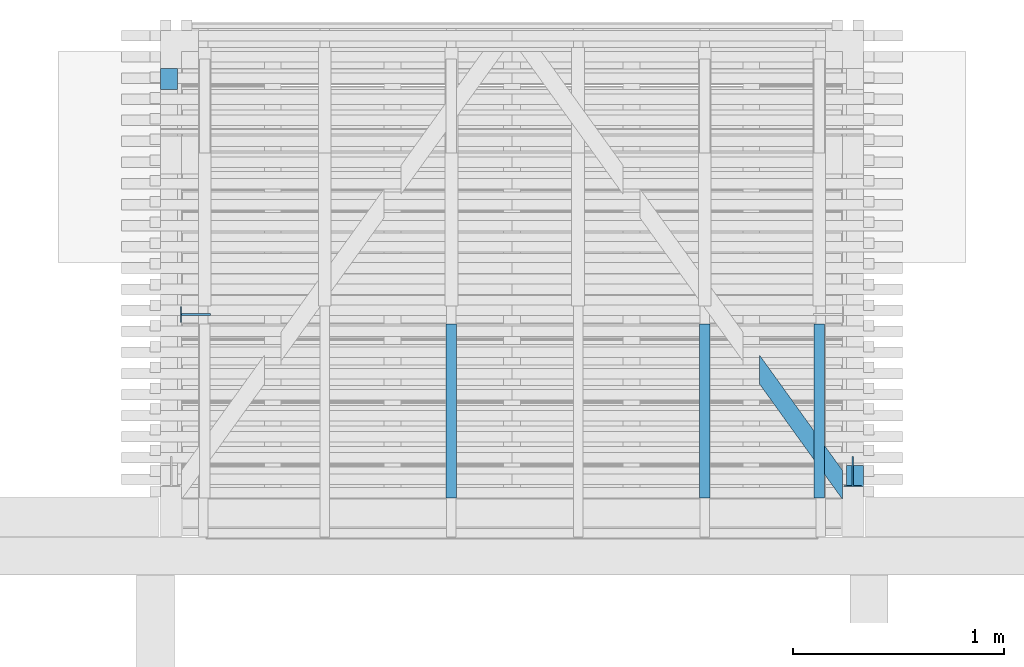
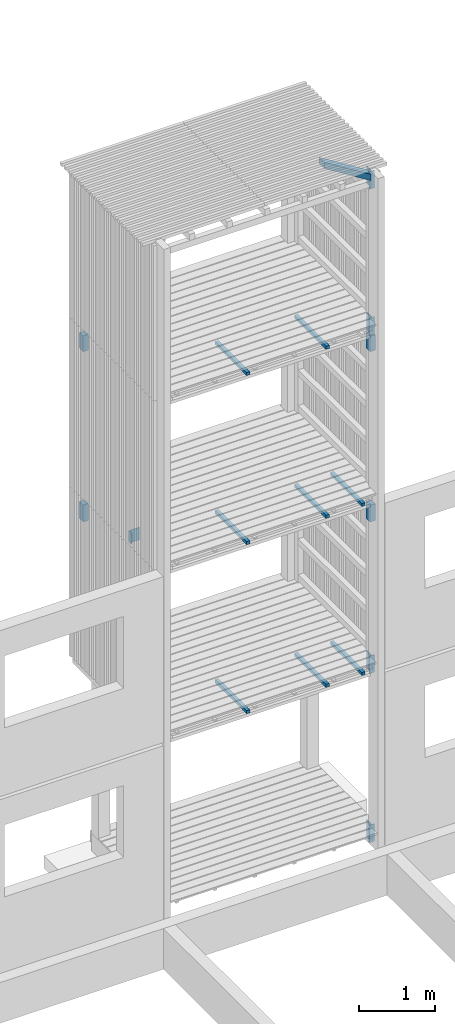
# One storey, part 162 of 182: 18 beams.
"""IFC2X3 building model written with IfcOpenShell, lengths in metres."""

from ifc_helpers import new_model, si_unit, frame, origin, place, context, project, spatial, faceted_brep, element, save


model = new_model("IFC2X3")

# Units and contexts
model_context = context("Model", 3, precision=1e-06, world=origin())
ifc_project = project(units=[si_unit("LENGTHUNIT", "METRE"), si_unit("PLANEANGLEUNIT", "RADIAN")], contexts=[model_context])

# Site, building, storey
site = spatial("IfcSite", under=ifc_project, CompositionType="ELEMENT")
building = spatial("IfcBuilding", under=site, CompositionType="ELEMENT")
storey = spatial("IfcBuildingStorey", under=building, Name="vs", CompositionType="ELEMENT", Elevation=-0.85)

# Beams
placement = place(None, origin())
beam_1_placement = place(placement, frame((6.604197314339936, 10.760077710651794, 4.85796194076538), z_axis=(0.0, 1.0, 0.0), x_axis=(0.0, 0.0, 1.0)))
element("IfcBeam", 1, at=beam_1_placement, inside=storey, Name="Support bardage", context=model_context, shape_type="Brep", body=[
    faceted_brep([(0.267038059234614, 0.039999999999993, -0.050000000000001), (0.267038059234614, 0.039999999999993, 0.05), (0.267038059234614, -0.04000000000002, 0.05), (0.267038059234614, -0.04000000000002, -0.050000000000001), (0.267038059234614, 0.039999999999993, -0.050000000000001), (0.267038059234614, -0.04000000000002, -0.050000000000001), (0.0, -0.04000000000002, -0.050000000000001), (0.0, 0.039999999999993, -0.050000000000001), (0.267038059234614, 0.039999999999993, 0.05), (0.267038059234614, 0.039999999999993, -0.050000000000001), (0.0, 0.039999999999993, -0.050000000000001), (0.0, 0.039999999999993, 0.05), (0.0, -0.04000000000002, -0.050000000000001), (0.267038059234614, -0.04000000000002, -0.050000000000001), (0.267038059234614, -0.04000000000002, 0.05), (0.0, -0.04000000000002, 0.05), (0.0, -0.04000000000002, 0.05), (0.267038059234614, -0.04000000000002, 0.05), (0.267038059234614, 0.039999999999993, 0.05), (0.0, 0.039999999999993, 0.05), (0.0, -0.04000000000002, -0.050000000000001), (0.0, -0.04000000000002, 0.05), (0.0, 0.039999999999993, 0.05), (0.0, 0.039999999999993, -0.050000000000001)], [[[0, 1, 2, 3]], [[4, 5, 6, 7]], [[8, 9, 10, 11]], [[12, 13, 14, 15]], [[16, 17, 18, 19]], [[20, 21, 22, 23]]]),
])
beam_2_placement = place(placement, frame((6.604197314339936, 10.760077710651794, 7.576188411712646), z_axis=(0.0, 1.0, 0.0), x_axis=(0.0, 0.0, 1.0)))
element("IfcBeam", 2, at=beam_2_placement, inside=storey, Name="Support bardage", context=model_context, shape_type="Brep", body=[
    faceted_brep([(0.248811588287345, 0.039999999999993, -0.050000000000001), (0.248811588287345, 0.039999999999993, 0.05), (0.248811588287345, -0.04000000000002, 0.05), (0.248811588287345, -0.04000000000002, -0.050000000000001), (0.248811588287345, 0.039999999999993, -0.050000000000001), (0.248811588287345, -0.04000000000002, -0.050000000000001), (0.0, -0.04000000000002, -0.050000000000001), (0.0, 0.039999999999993, -0.050000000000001), (0.0, -0.04000000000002, -0.050000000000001), (0.248811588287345, -0.04000000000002, -0.050000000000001), (0.248811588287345, -0.04000000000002, 0.05), (0.0, -0.04000000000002, 0.05), (0.0, -0.04000000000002, 0.05), (0.248811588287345, -0.04000000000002, 0.05), (0.248811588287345, 0.039999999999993, 0.05), (0.0, 0.039999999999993, 0.05), (0.0, 0.039999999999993, 0.05), (0.248811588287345, 0.039999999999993, 0.05), (0.248811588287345, 0.039999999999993, -0.050000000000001), (0.0, 0.039999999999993, -0.050000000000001), (0.0, -0.04000000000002, 0.05), (0.0, 0.039999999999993, 0.05), (0.0, 0.039999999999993, -0.050000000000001), (0.0, -0.04000000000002, -0.050000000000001)], [[[0, 1, 2, 3]], [[4, 5, 6, 7]], [[8, 9, 10, 11]], [[12, 13, 14, 15]], [[16, 17, 18, 19]], [[20, 21, 22, 23]]]),
])
beam_3_placement = place(placement, frame((5.892197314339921, 10.655077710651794, 5.217999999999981), z_axis=(0.0, 0.0, 1.0), x_axis=(0.0, 1.0, 0.0)))
element("IfcBeam", 3, at=beam_3_placement, inside=storey, Name="Calage", context=model_context, shape_type="Brep", body=[
    faceted_brep([(0.824999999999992, -0.025000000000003, 0.024999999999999), (0.824999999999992, 0.024999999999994, 0.024999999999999), (-1e-15, 0.024999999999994, 0.024999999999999), (-1e-15, -0.025000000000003, 0.024999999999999), (-1e-15, 0.024999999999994, 0.024999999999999), (0.824999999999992, 0.024999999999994, 0.024999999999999), (0.824999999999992, 0.024999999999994, -0.025), (-1e-15, 0.024999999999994, -0.025), (0.824999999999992, 0.024999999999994, 0.024999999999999), (0.824999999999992, -0.025000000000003, 0.024999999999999), (0.824999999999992, -0.025000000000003, -0.025), (0.824999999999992, 0.024999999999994, -0.025), (0.824999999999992, -0.025000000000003, -0.025), (0.824999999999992, -0.025000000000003, 0.024999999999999), (-1e-15, -0.025000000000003, 0.024999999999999), (-1e-15, -0.025000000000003, -0.025), (-1e-15, 0.024999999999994, -0.025), (0.824999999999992, 0.024999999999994, -0.025), (0.824999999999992, -0.025000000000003, -0.025), (-1e-15, -0.025000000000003, -0.025), (-1e-15, 0.024999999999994, 0.024999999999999), (-1e-15, 0.024999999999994, -0.025), (-1e-15, -0.025000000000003, -0.025), (-1e-15, -0.025000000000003, 0.024999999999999)], [[[0, 1, 2, 3]], [[4, 5, 6, 7]], [[8, 9, 10, 11]], [[12, 13, 14, 15]], [[16, 17, 18, 19]], [[20, 21, 22, 23]]]),
])
beam_4_placement = place(placement, frame((6.55319731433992, 10.781077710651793, -0.119999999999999), z_axis=(0.0, 0.0, 1.0), x_axis=(1.0, 0.0, 0.0)))
element("IfcBeam", 4, at=beam_4_placement, inside=storey, Name="Contre-usinage", context=model_context, shape_type="Brep", body=[
    faceted_brep([(0.037000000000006, -0.065999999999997, -0.14), (0.037000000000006, 0.071, -0.14), (0.045000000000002, 0.071, -0.14), (0.045000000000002, -0.065999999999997, -0.14), (0.082000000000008, -0.066000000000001, -0.14), (0.082000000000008, -0.071, -0.14), (0.0, -0.071, -0.14), (0.0, -0.066000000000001, -0.14), (0.045000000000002, 0.071, -0.14), (0.037000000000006, 0.071, -0.14), (0.037000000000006, 0.071, 0.14), (0.045000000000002, 0.071, 0.14), (0.045000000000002, -0.066000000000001, 0.14), (0.045000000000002, -0.065999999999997, -0.14), (0.045000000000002, 0.071, -0.14), (0.045000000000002, 0.071, 0.14), (0.082000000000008, -0.066000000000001, -0.14), (0.045000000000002, -0.065999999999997, -0.14), (0.045000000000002, -0.066000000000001, 0.14), (0.082000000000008, -0.066000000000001, 0.14), (0.082000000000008, -0.071, -0.14), (0.082000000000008, -0.066000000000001, -0.14), (0.082000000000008, -0.066000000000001, 0.14), (0.082000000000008, -0.071, 0.14), (0.0, -0.071, -0.14), (0.082000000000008, -0.071, -0.14), (0.082000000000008, -0.071, 0.14), (0.0, -0.071, 0.14), (0.0, -0.066000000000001, -0.14), (0.0, -0.071, -0.14), (0.0, -0.071, 0.14), (0.0, -0.066000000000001, 0.14), (0.037000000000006, -0.065999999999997, -0.14), (0.0, -0.066000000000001, -0.14), (0.0, -0.066000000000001, 0.14), (0.037000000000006, -0.066000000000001, 0.14), (0.037000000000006, 0.071, 0.14), (0.037000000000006, 0.071, -0.14), (0.037000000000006, -0.065999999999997, -0.14), (0.037000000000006, -0.066000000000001, 0.14), (0.082000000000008, -0.066000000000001, 0.14), (0.045000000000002, -0.066000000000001, 0.14), (0.045000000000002, 0.071, 0.14), (0.037000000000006, 0.071, 0.14), (0.037000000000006, -0.066000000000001, 0.14), (0.0, -0.066000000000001, 0.14), (0.0, -0.071, 0.14), (0.082000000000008, -0.071, 0.14)], [[[0, 1, 2, 3, 4, 5, 6, 7]], [[8, 9, 10, 11]], [[12, 13, 14, 15]], [[16, 17, 18, 19]], [[20, 21, 22, 23]], [[24, 25, 26, 27]], [[28, 29, 30, 31]], [[32, 33, 34, 35]], [[36, 37, 38, 39]], [[40, 41, 42, 43, 44, 45, 46, 47]]]),
])
beam_5_placement = place(placement, frame((4.692197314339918, 10.655077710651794, 5.217999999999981), z_axis=(0.0, 0.0, 1.0), x_axis=(0.0, 1.0, 0.0)))
element("IfcBeam", 5, at=beam_5_placement, inside=storey, Name="Calage", context=model_context, shape_type="Brep", body=[
    faceted_brep([(0.824999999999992, -0.025000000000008, 0.024999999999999), (0.824999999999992, 0.024999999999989, 0.024999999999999), (-1e-15, 0.024999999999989, 0.024999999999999), (-1e-15, -0.025000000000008, 0.024999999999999), (-1e-15, 0.024999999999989, 0.024999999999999), (0.824999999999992, 0.024999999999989, 0.024999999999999), (0.824999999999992, 0.024999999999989, -0.025), (-1e-15, 0.024999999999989, -0.025), (0.824999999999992, 0.024999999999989, 0.024999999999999), (0.824999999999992, -0.025000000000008, 0.024999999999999), (0.824999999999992, -0.025000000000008, -0.025), (0.824999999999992, 0.024999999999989, -0.025), (0.824999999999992, -0.025000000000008, -0.025), (0.824999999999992, -0.025000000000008, 0.024999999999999), (-1e-15, -0.025000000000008, 0.024999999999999), (-1e-15, -0.025000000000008, -0.025), (-1e-15, 0.024999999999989, -0.025), (0.824999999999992, 0.024999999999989, -0.025), (0.824999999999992, -0.025000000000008, -0.025), (-1e-15, -0.025000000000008, -0.025), (-1e-15, 0.024999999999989, 0.024999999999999), (-1e-15, 0.024999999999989, -0.025), (-1e-15, -0.025000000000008, -0.025), (-1e-15, -0.025000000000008, 0.024999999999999)], [[[0, 1, 2, 3]], [[4, 5, 6, 7]], [[8, 9, 10, 11]], [[12, 13, 14, 15]], [[16, 17, 18, 19]], [[20, 21, 22, 23]]]),
])
beam_6_placement = place(placement, frame((6.434197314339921, 10.655077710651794, 2.517999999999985), z_axis=(0.0, 0.0, 1.0), x_axis=(0.0, 1.0, 0.0)))
element("IfcBeam", 6, at=beam_6_placement, inside=storey, Name="Calage", context=model_context, shape_type="Brep", body=[
    faceted_brep([(-1e-15, -0.025000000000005, 0.025), (0.824999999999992, -0.025000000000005, 0.025), (0.824999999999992, 0.024999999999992, 0.025), (-1e-15, 0.024999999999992, 0.025), (-1e-15, 0.024999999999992, 0.025), (0.824999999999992, 0.024999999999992, 0.025), (0.824999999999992, 0.024999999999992, -0.025), (-1e-15, 0.024999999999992, -0.025), (0.824999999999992, 0.024999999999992, 0.025), (0.824999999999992, -0.025000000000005, 0.025), (0.824999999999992, -0.025000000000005, -0.025), (0.824999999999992, 0.024999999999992, -0.025), (-1e-15, -0.025000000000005, -0.025), (0.824999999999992, -0.025000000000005, -0.025), (0.824999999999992, -0.025000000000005, 0.025), (-1e-15, -0.025000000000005, 0.025), (-1e-15, 0.024999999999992, -0.025), (0.824999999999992, 0.024999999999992, -0.025), (0.824999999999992, -0.025000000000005, -0.025), (-1e-15, -0.025000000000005, -0.025), (-1e-15, 0.024999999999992, 0.025), (-1e-15, 0.024999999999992, -0.025), (-1e-15, -0.025000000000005, -0.025), (-1e-15, -0.025000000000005, 0.025)], [[[0, 1, 2, 3]], [[4, 5, 6, 7]], [[8, 9, 10, 11]], [[12, 13, 14, 15]], [[16, 17, 18, 19]], [[20, 21, 22, 23]]]),
])
beam_7_placement = place(placement, frame((5.892197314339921, 10.655077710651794, 7.917999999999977), z_axis=(0.0, 0.0, 1.0), x_axis=(0.0, 1.0, 0.0)))
element("IfcBeam", 7, at=beam_7_placement, inside=storey, Name="Calage", context=model_context, shape_type="Brep", body=[
    faceted_brep([(0.824999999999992, -0.025000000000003, 0.024999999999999), (0.824999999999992, 0.024999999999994, 0.024999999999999), (-1e-15, 0.024999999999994, 0.024999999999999), (-1e-15, -0.025000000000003, 0.024999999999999), (-1e-15, 0.024999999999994, 0.024999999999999), (0.824999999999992, 0.024999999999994, 0.024999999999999), (0.824999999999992, 0.024999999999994, -0.025), (-1e-15, 0.024999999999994, -0.025), (0.824999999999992, 0.024999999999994, 0.024999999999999), (0.824999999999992, -0.025000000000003, 0.024999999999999), (0.824999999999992, -0.025000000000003, -0.025), (0.824999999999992, 0.024999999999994, -0.025), (0.824999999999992, -0.025000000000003, -0.025), (0.824999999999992, -0.025000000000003, 0.024999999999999), (-1e-15, -0.025000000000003, 0.024999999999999), (-1e-15, -0.025000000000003, -0.025), (-1e-15, 0.024999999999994, -0.025), (0.824999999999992, 0.024999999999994, -0.025), (0.824999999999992, -0.025000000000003, -0.025), (-1e-15, -0.025000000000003, -0.025), (-1e-15, 0.024999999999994, 0.024999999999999), (-1e-15, 0.024999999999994, -0.025), (-1e-15, -0.025000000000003, -0.025), (-1e-15, -0.025000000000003, 0.024999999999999)], [[[0, 1, 2, 3]], [[4, 5, 6, 7]], [[8, 9, 10, 11]], [[12, 13, 14, 15]], [[16, 17, 18, 19]], [[20, 21, 22, 23]]]),
])
beam_8_placement = place(placement, frame((6.434197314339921, 10.655077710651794, 5.217999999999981), z_axis=(0.0, 0.0, 1.0), x_axis=(0.0, 1.0, 0.0)))
element("IfcBeam", 8, at=beam_8_placement, inside=storey, Name="Calage", context=model_context, shape_type="Brep", body=[
    faceted_brep([(-1e-15, -0.025000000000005, 0.024999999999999), (0.824999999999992, -0.025000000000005, 0.024999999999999), (0.824999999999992, 0.024999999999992, 0.024999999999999), (-1e-15, 0.024999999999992, 0.024999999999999), (-1e-15, 0.024999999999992, 0.024999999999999), (0.824999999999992, 0.024999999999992, 0.024999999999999), (0.824999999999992, 0.024999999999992, -0.025), (-1e-15, 0.024999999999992, -0.025), (0.824999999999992, 0.024999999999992, 0.024999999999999), (0.824999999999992, -0.025000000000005, 0.024999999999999), (0.824999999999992, -0.025000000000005, -0.025), (0.824999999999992, 0.024999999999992, -0.025), (-1e-15, -0.025000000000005, -0.025), (0.824999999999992, -0.025000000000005, -0.025), (0.824999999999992, -0.025000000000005, 0.024999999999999), (-1e-15, -0.025000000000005, 0.024999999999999), (-1e-15, 0.024999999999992, -0.025), (0.824999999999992, 0.024999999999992, -0.025), (0.824999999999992, -0.025000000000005, -0.025), (-1e-15, -0.025000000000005, -0.025), (-1e-15, 0.024999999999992, 0.024999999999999), (-1e-15, 0.024999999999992, -0.025), (-1e-15, -0.025000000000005, -0.025), (-1e-15, -0.025000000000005, 0.024999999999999)], [[[0, 1, 2, 3]], [[4, 5, 6, 7]], [[8, 9, 10, 11]], [[12, 13, 14, 15]], [[16, 17, 18, 19]], [[20, 21, 22, 23]]]),
])
beam_9_placement = place(placement, frame((6.55319731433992, 10.781077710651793, 2.579999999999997), z_axis=(0.0, 0.0, 1.0), x_axis=(1.0, 0.0, 0.0)))
element("IfcBeam", 9, at=beam_9_placement, inside=storey, Name="Contre-usinage", context=model_context, shape_type="Brep", body=[
    faceted_brep([(0.037000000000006, -0.065999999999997, -0.14), (0.037000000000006, 0.071, -0.14), (0.045000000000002, 0.071, -0.14), (0.045000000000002, -0.065999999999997, -0.14), (0.082000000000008, -0.066000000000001, -0.14), (0.082000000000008, -0.071, -0.14), (0.0, -0.071, -0.14), (0.0, -0.066000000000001, -0.14), (0.045000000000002, 0.071, -0.14), (0.037000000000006, 0.071, -0.14), (0.037000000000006, 0.071, 0.14), (0.045000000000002, 0.071, 0.14), (0.045000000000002, -0.066000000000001, 0.14), (0.045000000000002, -0.065999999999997, -0.14), (0.045000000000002, 0.071, -0.14), (0.045000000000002, 0.071, 0.14), (0.082000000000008, -0.066000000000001, -0.14), (0.045000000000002, -0.065999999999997, -0.14), (0.045000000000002, -0.066000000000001, 0.14), (0.082000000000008, -0.066000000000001, 0.14), (0.082000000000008, -0.071, -0.14), (0.082000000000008, -0.066000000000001, -0.14), (0.082000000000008, -0.066000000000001, 0.14), (0.082000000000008, -0.071, 0.14), (0.0, -0.071, -0.14), (0.082000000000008, -0.071, -0.14), (0.082000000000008, -0.071, 0.14), (0.0, -0.071, 0.14), (0.0, -0.066000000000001, -0.14), (0.0, -0.071, -0.14), (0.0, -0.071, 0.14), (0.0, -0.066000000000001, 0.14), (0.037000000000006, -0.065999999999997, -0.14), (0.0, -0.066000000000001, -0.14), (0.0, -0.066000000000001, 0.14), (0.037000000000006, -0.066000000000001, 0.14), (0.037000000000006, 0.071, 0.14), (0.037000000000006, 0.071, -0.14), (0.037000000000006, -0.065999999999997, -0.14), (0.037000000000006, -0.066000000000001, 0.14), (0.082000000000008, -0.066000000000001, 0.14), (0.045000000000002, -0.066000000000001, 0.14), (0.045000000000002, 0.071, 0.14), (0.037000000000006, 0.071, 0.14), (0.037000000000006, -0.066000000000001, 0.14), (0.0, -0.066000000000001, 0.14), (0.0, -0.071, 0.14), (0.082000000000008, -0.071, 0.14)], [[[0, 1, 2, 3, 4, 5, 6, 7]], [[8, 9, 10, 11]], [[12, 13, 14, 15]], [[16, 17, 18, 19]], [[20, 21, 22, 23]], [[24, 25, 26, 27]], [[28, 29, 30, 31]], [[32, 33, 34, 35]], [[36, 37, 38, 39]], [[40, 41, 42, 43, 44, 45, 46, 47]]]),
])
beam_10_placement = place(placement, frame((3.354197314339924, 12.64007771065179, 4.85796194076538), z_axis=(0.0, -1.0, 0.0), x_axis=(0.0, 0.0, 1.0)))
element("IfcBeam", 10, at=beam_10_placement, inside=storey, Name="Support bardage", context=model_context, shape_type="Brep", body=[
    faceted_brep([(0.267038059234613, -0.040000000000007, -0.050000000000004), (0.267038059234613, 0.039999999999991, -0.050000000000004), (0.267038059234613, 0.039999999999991, 0.049999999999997), (0.267038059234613, -0.040000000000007, 0.049999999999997), (0.267038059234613, 0.039999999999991, 0.049999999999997), (0.267038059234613, 0.039999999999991, -0.050000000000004), (0.0, 0.039999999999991, -0.050000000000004), (0.0, 0.039999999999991, 0.049999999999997), (0.267038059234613, -0.040000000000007, 0.049999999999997), (0.267038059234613, 0.039999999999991, 0.049999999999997), (0.0, 0.039999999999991, 0.049999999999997), (0.0, -0.040000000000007, 0.049999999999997), (0.267038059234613, 0.039999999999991, -0.050000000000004), (0.267038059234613, -0.040000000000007, -0.050000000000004), (0.0, -0.040000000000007, -0.050000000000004), (0.0, 0.039999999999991, -0.050000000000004), (0.267038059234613, -0.040000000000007, -0.050000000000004), (0.267038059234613, -0.040000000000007, 0.049999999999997), (0.0, -0.040000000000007, 0.049999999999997), (0.0, -0.040000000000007, -0.050000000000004), (0.0, 0.039999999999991, -0.050000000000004), (0.0, -0.040000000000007, -0.050000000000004), (0.0, -0.040000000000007, 0.049999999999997), (0.0, 0.039999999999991, 0.049999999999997)], [[[0, 1, 2, 3]], [[4, 5, 6, 7]], [[8, 9, 10, 11]], [[12, 13, 14, 15]], [[16, 17, 18, 19]], [[20, 21, 22, 23]]]),
])
beam_11_placement = place(placement, frame((3.354197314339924, 12.64007771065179, 7.576188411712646), z_axis=(0.0, -1.0, 0.0), x_axis=(0.0, 0.0, 1.0)))
element("IfcBeam", 11, at=beam_11_placement, inside=storey, Name="Support bardage", context=model_context, shape_type="Brep", body=[
    faceted_brep([(0.248811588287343, -0.040000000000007, -0.050000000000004), (0.248811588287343, 0.039999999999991, -0.050000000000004), (0.248811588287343, 0.039999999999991, 0.049999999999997), (0.248811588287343, -0.040000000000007, 0.049999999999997), (0.248811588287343, 0.039999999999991, 0.049999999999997), (0.248811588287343, 0.039999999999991, -0.050000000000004), (0.0, 0.039999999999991, -0.050000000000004), (0.0, 0.039999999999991, 0.049999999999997), (0.248811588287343, 0.039999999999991, -0.050000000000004), (0.248811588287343, -0.040000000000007, -0.050000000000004), (0.0, -0.040000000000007, -0.050000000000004), (0.0, 0.039999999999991, -0.050000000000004), (0.248811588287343, -0.040000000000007, -0.050000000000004), (0.248811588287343, -0.040000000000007, 0.049999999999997), (0.0, -0.040000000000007, 0.049999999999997), (0.0, -0.040000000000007, -0.050000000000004), (0.248811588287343, -0.040000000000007, 0.049999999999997), (0.248811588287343, 0.039999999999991, 0.049999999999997), (0.0, 0.039999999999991, 0.049999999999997), (0.0, -0.040000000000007, 0.049999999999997), (0.0, -0.040000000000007, -0.050000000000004), (0.0, -0.040000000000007, 0.049999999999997), (0.0, 0.039999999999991, 0.049999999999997), (0.0, 0.039999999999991, -0.050000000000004)], [[[0, 1, 2, 3]], [[4, 5, 6, 7]], [[8, 9, 10, 11]], [[12, 13, 14, 15]], [[16, 17, 18, 19]], [[20, 21, 22, 23]]]),
])
beam_12_placement = place(placement, frame((6.55319731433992, 10.781077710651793, 7.979999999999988), z_axis=(0.0, 0.0, 1.0), x_axis=(1.0, 0.0, 0.0)))
element("IfcBeam", 12, at=beam_12_placement, inside=storey, Name="Contre-usinage", context=model_context, shape_type="Brep", body=[
    faceted_brep([(0.037000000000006, -0.065999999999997, -0.14), (0.037000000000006, 0.071, -0.14), (0.045000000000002, 0.071, -0.14), (0.045000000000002, -0.065999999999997, -0.14), (0.082000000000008, -0.066000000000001, -0.14), (0.082000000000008, -0.071, -0.14), (0.0, -0.071, -0.14), (0.0, -0.066000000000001, -0.14), (0.045000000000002, 0.071, -0.14), (0.037000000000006, 0.071, -0.14), (0.037000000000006, 0.071, 0.140000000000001), (0.045000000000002, 0.071, 0.140000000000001), (0.045000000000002, -0.066000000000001, 0.140000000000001), (0.045000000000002, -0.065999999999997, -0.14), (0.045000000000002, 0.071, -0.14), (0.045000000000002, 0.071, 0.140000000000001), (0.082000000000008, -0.066000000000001, -0.14), (0.045000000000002, -0.065999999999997, -0.14), (0.045000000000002, -0.066000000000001, 0.140000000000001), (0.082000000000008, -0.066000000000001, 0.140000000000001), (0.082000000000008, -0.071, -0.14), (0.082000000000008, -0.066000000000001, -0.14), (0.082000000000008, -0.066000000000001, 0.140000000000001), (0.082000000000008, -0.071, 0.140000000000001), (0.0, -0.071, -0.14), (0.082000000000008, -0.071, -0.14), (0.082000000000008, -0.071, 0.140000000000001), (0.0, -0.071, 0.140000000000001), (0.0, -0.066000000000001, -0.14), (0.0, -0.071, -0.14), (0.0, -0.071, 0.140000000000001), (0.0, -0.066000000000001, 0.140000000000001), (0.037000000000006, -0.065999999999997, -0.14), (0.0, -0.066000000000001, -0.14), (0.0, -0.066000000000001, 0.140000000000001), (0.037000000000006, -0.066000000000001, 0.140000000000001), (0.037000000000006, 0.071, 0.140000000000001), (0.037000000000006, 0.071, -0.14), (0.037000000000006, -0.065999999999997, -0.14), (0.037000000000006, -0.066000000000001, 0.140000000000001), (0.082000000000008, -0.066000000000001, 0.140000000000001), (0.045000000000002, -0.066000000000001, 0.140000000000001), (0.045000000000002, 0.071, 0.140000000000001), (0.037000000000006, 0.071, 0.140000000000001), (0.037000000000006, -0.066000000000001, 0.140000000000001), (0.0, -0.066000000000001, 0.140000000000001), (0.0, -0.071, 0.140000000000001), (0.082000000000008, -0.071, 0.140000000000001)], [[[0, 1, 2, 3, 4, 5, 6, 7]], [[8, 9, 10, 11]], [[12, 13, 14, 15]], [[16, 17, 18, 19]], [[20, 21, 22, 23]], [[24, 25, 26, 27]], [[28, 29, 30, 31]], [[32, 33, 34, 35]], [[36, 37, 38, 39]], [[40, 41, 42, 43, 44, 45, 46, 47]]]),
])
beam_13_placement = place(placement, frame((6.576668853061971, 10.673435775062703, 10.404999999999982), z_axis=(0.0, 0.0, 1.0), x_axis=(-0.58395161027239, 0.811788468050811, 0.0)))
element("IfcBeam", 13, at=beam_13_placement, inside=storey, Name="Support bardage", context=model_context, shape_type="Brep", body=[
    faceted_brep([(2e-15, 0.040000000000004, -0.050000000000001), (0.111213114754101, -0.039999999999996, -0.049999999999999), (0.111213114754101, -0.039999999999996, 0.050000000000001), (2e-15, 0.040000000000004, 0.050000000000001), (0.111213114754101, -0.039999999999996, -0.049999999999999), (2e-15, 0.040000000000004, -0.050000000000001), (0.670717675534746, 0.04, -0.050000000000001), (0.781930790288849, -0.040000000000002, -0.050000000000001), (0.111213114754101, -0.039999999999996, 0.050000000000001), (0.111213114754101, -0.039999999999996, -0.049999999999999), (0.781930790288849, -0.040000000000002, -0.050000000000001), (0.781930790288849, -0.040000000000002, 0.050000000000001), (2e-15, 0.040000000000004, 0.050000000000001), (0.111213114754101, -0.039999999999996, 0.050000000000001), (0.781930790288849, -0.040000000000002, 0.050000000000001), (0.670717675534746, 0.04, 0.050000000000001), (0.670717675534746, 0.04, -0.050000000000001), (2e-15, 0.040000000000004, -0.050000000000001), (2e-15, 0.040000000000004, 0.050000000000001), (0.670717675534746, 0.04, 0.050000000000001), (0.670717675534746, 0.04, 0.050000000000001), (0.781930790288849, -0.040000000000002, 0.050000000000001), (0.781930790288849, -0.040000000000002, -0.050000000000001), (0.670717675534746, 0.04, -0.050000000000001)], [[[0, 1, 2, 3]], [[4, 5, 6, 7]], [[8, 9, 10, 11]], [[12, 13, 14, 15]], [[16, 17, 18, 19]], [[20, 21, 22, 23]]]),
])
beam_14_placement = place(placement, frame((4.692197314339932, 10.655077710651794, 7.917999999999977), z_axis=(0.0, 0.0, 1.0), x_axis=(0.0, 1.0, 0.0)))
element("IfcBeam", 14, at=beam_14_placement, inside=storey, Name="Calage", context=model_context, shape_type="Brep", body=[
    faceted_brep([(0.824999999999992, -0.024999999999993, 0.024999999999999), (0.824999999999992, 0.025000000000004, 0.024999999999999), (-1e-15, 0.025000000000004, 0.024999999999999), (-1e-15, -0.024999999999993, 0.024999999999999), (-1e-15, 0.025000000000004, 0.024999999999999), (0.824999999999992, 0.025000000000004, 0.024999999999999), (0.824999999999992, 0.025000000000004, -0.025), (-1e-15, 0.025000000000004, -0.025), (0.824999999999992, 0.025000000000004, 0.024999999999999), (0.824999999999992, -0.024999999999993, 0.024999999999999), (0.824999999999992, -0.024999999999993, -0.025), (0.824999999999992, 0.025000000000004, -0.025), (0.824999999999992, -0.024999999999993, -0.025), (0.824999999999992, -0.024999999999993, 0.024999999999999), (-1e-15, -0.024999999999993, 0.024999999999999), (-1e-15, -0.024999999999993, -0.025), (-1e-15, 0.025000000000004, -0.025), (0.824999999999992, 0.025000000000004, -0.025), (0.824999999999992, -0.024999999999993, -0.025), (-1e-15, -0.024999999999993, -0.025), (-1e-15, 0.025000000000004, 0.024999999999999), (-1e-15, 0.025000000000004, -0.025), (-1e-15, -0.024999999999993, -0.025), (-1e-15, -0.024999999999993, 0.024999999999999)], [[[0, 1, 2, 3]], [[4, 5, 6, 7]], [[8, 9, 10, 11]], [[12, 13, 14, 15]], [[16, 17, 18, 19]], [[20, 21, 22, 23]]]),
])
beam_15_placement = place(placement, frame((6.55319731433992, 10.781077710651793, 10.314999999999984), z_axis=(0.0, 0.0, 1.0), x_axis=(1.0, 0.0, 0.0)))
element("IfcBeam", 15, at=beam_15_placement, inside=storey, Name="Contre-usinage", context=model_context, shape_type="Brep", body=[
    faceted_brep([(0.037000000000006, -0.065999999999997, -0.140000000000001), (0.037000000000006, 0.071, -0.140000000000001), (0.045000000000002, 0.071, -0.140000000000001), (0.045000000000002, -0.065999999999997, -0.140000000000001), (0.082000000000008, -0.066000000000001, -0.140000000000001), (0.082000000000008, -0.071, -0.140000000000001), (0.0, -0.071, -0.140000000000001), (0.0, -0.066000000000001, -0.140000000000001), (0.045000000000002, 0.071, -0.140000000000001), (0.037000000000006, 0.071, -0.140000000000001), (0.037000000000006, 0.071, 0.140000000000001), (0.045000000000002, 0.071, 0.140000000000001), (0.045000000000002, -0.066000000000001, 0.140000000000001), (0.045000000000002, -0.065999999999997, -0.140000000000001), (0.045000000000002, 0.071, -0.140000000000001), (0.045000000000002, 0.071, 0.140000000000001), (0.082000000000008, -0.066000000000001, -0.140000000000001), (0.045000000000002, -0.065999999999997, -0.140000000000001), (0.045000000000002, -0.066000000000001, 0.140000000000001), (0.082000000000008, -0.066000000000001, 0.140000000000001), (0.082000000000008, -0.071, -0.140000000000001), (0.082000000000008, -0.066000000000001, -0.140000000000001), (0.082000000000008, -0.066000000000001, 0.140000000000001), (0.082000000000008, -0.071, 0.140000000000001), (0.0, -0.071, -0.140000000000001), (0.082000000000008, -0.071, -0.140000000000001), (0.082000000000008, -0.071, 0.140000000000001), (0.0, -0.071, 0.140000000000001), (0.0, -0.066000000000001, -0.140000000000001), (0.0, -0.071, -0.140000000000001), (0.0, -0.071, 0.140000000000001), (0.0, -0.066000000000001, 0.140000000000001), (0.037000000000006, -0.065999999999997, -0.140000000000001), (0.0, -0.066000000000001, -0.140000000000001), (0.0, -0.066000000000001, 0.140000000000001), (0.037000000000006, -0.066000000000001, 0.140000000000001), (0.037000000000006, 0.071, 0.140000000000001), (0.037000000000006, 0.071, -0.140000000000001), (0.037000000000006, -0.065999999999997, -0.140000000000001), (0.037000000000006, -0.066000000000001, 0.140000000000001), (0.082000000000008, -0.066000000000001, 0.140000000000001), (0.045000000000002, -0.066000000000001, 0.140000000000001), (0.045000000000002, 0.071, 0.140000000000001), (0.037000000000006, 0.071, 0.140000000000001), (0.037000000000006, -0.066000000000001, 0.140000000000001), (0.0, -0.066000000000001, 0.140000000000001), (0.0, -0.071, 0.140000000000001), (0.082000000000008, -0.071, 0.140000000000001)], [[[0, 1, 2, 3, 4, 5, 6, 7]], [[8, 9, 10, 11]], [[12, 13, 14, 15]], [[16, 17, 18, 19]], [[20, 21, 22, 23]], [[24, 25, 26, 27]], [[28, 29, 30, 31]], [[32, 33, 34, 35]], [[36, 37, 38, 39]], [[40, 41, 42, 43, 44, 45, 46, 47]]]),
])
beam_16_placement = place(placement, frame((5.892197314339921, 10.655077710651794, 2.517999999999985), z_axis=(0.0, 0.0, 1.0), x_axis=(0.0, 1.0, 0.0)))
element("IfcBeam", 16, at=beam_16_placement, inside=storey, Name="Calage", context=model_context, shape_type="Brep", body=[
    faceted_brep([(0.824999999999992, -0.025000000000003, 0.025), (0.824999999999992, 0.024999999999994, 0.025), (-1e-15, 0.024999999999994, 0.025), (-1e-15, -0.025000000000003, 0.025), (-1e-15, 0.024999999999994, 0.025), (0.824999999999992, 0.024999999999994, 0.025), (0.824999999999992, 0.024999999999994, -0.025), (-1e-15, 0.024999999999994, -0.025), (0.824999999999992, 0.024999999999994, 0.025), (0.824999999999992, -0.025000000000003, 0.025), (0.824999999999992, -0.025000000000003, -0.025), (0.824999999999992, 0.024999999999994, -0.025), (0.824999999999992, -0.025000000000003, -0.025), (0.824999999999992, -0.025000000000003, 0.025), (-1e-15, -0.025000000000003, 0.025), (-1e-15, -0.025000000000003, -0.025), (-1e-15, 0.024999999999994, -0.025), (0.824999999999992, 0.024999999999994, -0.025), (0.824999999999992, -0.025000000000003, -0.025), (-1e-15, -0.025000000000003, -0.025), (-1e-15, 0.024999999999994, 0.025), (-1e-15, 0.024999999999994, -0.025), (-1e-15, -0.025000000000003, -0.025), (-1e-15, -0.025000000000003, 0.025)], [[[0, 1, 2, 3]], [[4, 5, 6, 7]], [[8, 9, 10, 11]], [[12, 13, 14, 15]], [[16, 17, 18, 19]], [[20, 21, 22, 23]]]),
])
beam_17_placement = place(placement, frame((3.480197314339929, 11.525077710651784, 5.139999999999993), z_axis=(1.0, 0.0, 0.0), x_axis=(0.0, 0.0, 1.0)))
element("IfcBeam", 17, at=beam_17_placement, inside=storey, Name="Contre-usinage", context=model_context, shape_type="Brep", body=[
    faceted_brep([(0.2, 0.004000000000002, -0.066000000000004), (0.2, -0.004000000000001, -0.066000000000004), (0.174999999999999, -0.004000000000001, -0.066000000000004), (0.174999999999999, 0.004000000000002, -0.066000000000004), (0.174999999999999, -0.004000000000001, -0.066000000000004), (0.0, -0.004000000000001, -0.066000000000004), (0.0, -0.038, -0.066000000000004), (0.174999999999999, -0.038, -0.066000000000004), (0.174999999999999, 0.038000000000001, -0.066000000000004), (0.0, 0.038000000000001, -0.066000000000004), (0.0, 0.004000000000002, -0.066000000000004), (0.174999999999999, 0.004000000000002, -0.066000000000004), (0.2, 0.004000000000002, -0.066000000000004), (0.174999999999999, 0.004000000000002, -0.066000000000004), (0.0, 0.004000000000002, -0.066000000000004), (0.0, 0.004000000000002, 0.070999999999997), (0.2, 0.004000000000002, 0.070999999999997), (0.2, 0.004000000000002, 0.070999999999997), (0.0, 0.004000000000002, 0.070999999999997), (0.0, -0.004000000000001, 0.070999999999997), (0.2, -0.004000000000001, 0.070999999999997), (0.174999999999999, -0.038, -0.070999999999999), (0.0, -0.038, -0.070999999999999), (0.0, 0.038000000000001, -0.070999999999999), (0.174999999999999, 0.038000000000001, -0.070999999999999), (0.174999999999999, 0.038000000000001, -0.066000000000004), (0.174999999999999, 0.004000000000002, -0.066000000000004), (0.174999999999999, -0.004000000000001, -0.066000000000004), (0.174999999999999, -0.038, -0.066000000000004), (0.174999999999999, -0.038, -0.070999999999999), (0.174999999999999, 0.038000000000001, -0.070999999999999), (0.2, -0.004000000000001, 0.070999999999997), (0.0, -0.004000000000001, 0.070999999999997), (0.0, -0.004000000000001, -0.066000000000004), (0.174999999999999, -0.004000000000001, -0.066000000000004), (0.2, -0.004000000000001, -0.066000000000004), (0.2, -0.004000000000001, -0.066000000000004), (0.2, 0.004000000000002, -0.066000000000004), (0.2, 0.004000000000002, 0.070999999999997), (0.2, -0.004000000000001, 0.070999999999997), (0.174999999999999, -0.038, -0.070999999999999), (0.174999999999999, -0.038, -0.066000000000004), (0.0, -0.038, -0.066000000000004), (0.0, -0.038, -0.070999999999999), (0.0, -0.038, -0.066000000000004), (0.0, -0.004000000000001, -0.066000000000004), (0.0, -0.004000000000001, 0.070999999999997), (0.0, 0.004000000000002, 0.070999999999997), (0.0, 0.004000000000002, -0.066000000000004), (0.0, 0.038000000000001, -0.066000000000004), (0.0, 0.038000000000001, -0.070999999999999), (0.0, -0.038, -0.070999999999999), (0.174999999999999, 0.038000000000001, -0.066000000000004), (0.174999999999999, 0.038000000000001, -0.070999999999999), (0.0, 0.038000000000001, -0.070999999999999), (0.0, 0.038000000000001, -0.066000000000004)], [[[0, 1, 2, 3]], [[4, 5, 6, 7]], [[8, 9, 10, 11]], [[12, 13, 14, 15, 16]], [[17, 18, 19, 20]], [[21, 22, 23, 24]], [[25, 26, 27, 28, 29, 30]], [[31, 32, 33, 34, 35]], [[36, 37, 38, 39]], [[40, 41, 42, 43]], [[44, 45, 46, 47, 48, 49, 50, 51]], [[52, 53, 54, 55]]]),
])
beam_18_placement = place(placement, frame((4.692197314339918, 10.655077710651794, 2.517999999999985), z_axis=(0.0, 0.0, 1.0), x_axis=(0.0, 1.0, 0.0)))
element("IfcBeam", 18, at=beam_18_placement, inside=storey, Name="Calage", context=model_context, shape_type="Brep", body=[
    faceted_brep([(0.824999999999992, -0.025000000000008, 0.025), (0.824999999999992, 0.024999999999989, 0.025), (-1e-15, 0.024999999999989, 0.025), (-1e-15, -0.025000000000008, 0.025), (-1e-15, 0.024999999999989, 0.025), (0.824999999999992, 0.024999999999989, 0.025), (0.824999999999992, 0.024999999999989, -0.025), (-1e-15, 0.024999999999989, -0.025), (0.824999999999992, 0.024999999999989, 0.025), (0.824999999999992, -0.025000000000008, 0.025), (0.824999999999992, -0.025000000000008, -0.025), (0.824999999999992, 0.024999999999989, -0.025), (0.824999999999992, -0.025000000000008, -0.025), (0.824999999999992, -0.025000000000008, 0.025), (-1e-15, -0.025000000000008, 0.025), (-1e-15, -0.025000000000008, -0.025), (-1e-15, 0.024999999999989, -0.025), (0.824999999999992, 0.024999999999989, -0.025), (0.824999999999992, -0.025000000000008, -0.025), (-1e-15, -0.025000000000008, -0.025), (-1e-15, 0.024999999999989, 0.025), (-1e-15, 0.024999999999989, -0.025), (-1e-15, -0.025000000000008, -0.025), (-1e-15, -0.025000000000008, 0.025)], [[[0, 1, 2, 3]], [[4, 5, 6, 7]], [[8, 9, 10, 11]], [[12, 13, 14, 15]], [[16, 17, 18, 19]], [[20, 21, 22, 23]]]),
])

save(model, "model.ifc")
